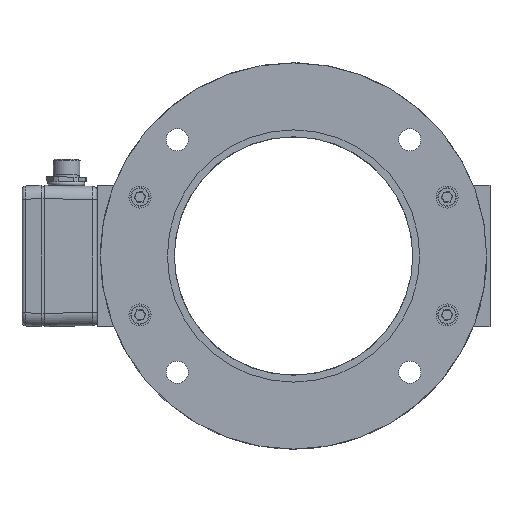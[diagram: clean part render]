
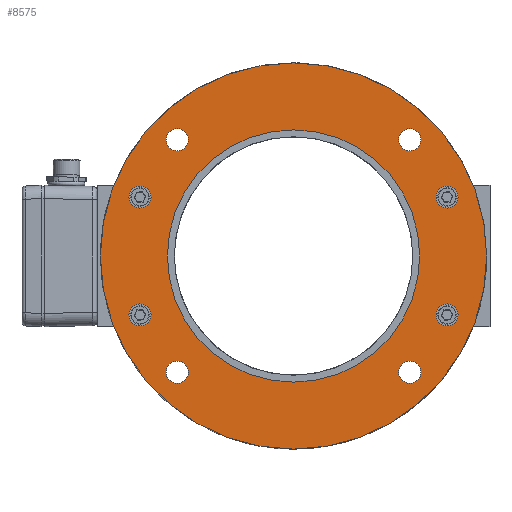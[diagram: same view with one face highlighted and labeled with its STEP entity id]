
A CAD part, front view. The second image highlights one B-rep face of the part: STEP entity #8575.
In plain terms, the highlighted planar face has unit normal (0, -1, 0).
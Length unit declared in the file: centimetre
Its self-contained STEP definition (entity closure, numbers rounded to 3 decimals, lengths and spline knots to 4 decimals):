
#2652=PLANE('',#9125);
#2825=VERTEX_POINT('',#12109);
#2829=VERTEX_POINT('',#12120);
#2833=VERTEX_POINT('',#12131);
#2837=VERTEX_POINT('',#12142);
#2915=VERTEX_POINT('',#12898);
#2917=VERTEX_POINT('',#12903);
#2919=VERTEX_POINT('',#12908);
#2921=VERTEX_POINT('',#12913);
#2927=VERTEX_POINT('',#12930);
#2931=VERTEX_POINT('',#12945);
#3547=CIRCLE('',#9025,0.5);
#3551=CIRCLE('',#9032,0.5);
#3555=CIRCLE('',#9039,0.5);
#3559=CIRCLE('',#9046,0.5);
#3585=CIRCLE('',#9092,0.5);
#3587=CIRCLE('',#9095,0.5);
#3589=CIRCLE('',#9098,0.5);
#3591=CIRCLE('',#9101,0.5);
#3597=CIRCLE('',#9112,5.715);
#3605=CIRCLE('',#9123,8.75);
#3932=EDGE_CURVE('',#2825,#2825,#3547,.T.);
#3936=EDGE_CURVE('',#2829,#2829,#3551,.T.);
#3940=EDGE_CURVE('',#2833,#2833,#3555,.T.);
#3944=EDGE_CURVE('',#2837,#2837,#3559,.T.);
#4050=EDGE_CURVE('',#2915,#2915,#3585,.T.);
#4052=EDGE_CURVE('',#2917,#2917,#3587,.T.);
#4054=EDGE_CURVE('',#2919,#2919,#3589,.T.);
#4056=EDGE_CURVE('',#2921,#2921,#3591,.T.);
#4062=EDGE_CURVE('',#2927,#2927,#3597,.T.);
#4070=EDGE_CURVE('',#2931,#2931,#3605,.T.);
#5194=ORIENTED_EDGE('',*,*,#3932,.T.);
#5195=ORIENTED_EDGE('',*,*,#3936,.T.);
#5196=ORIENTED_EDGE('',*,*,#3940,.T.);
#5197=ORIENTED_EDGE('',*,*,#3944,.T.);
#5198=ORIENTED_EDGE('',*,*,#4050,.T.);
#5199=ORIENTED_EDGE('',*,*,#4052,.T.);
#5200=ORIENTED_EDGE('',*,*,#4054,.T.);
#5201=ORIENTED_EDGE('',*,*,#4056,.T.);
#5202=ORIENTED_EDGE('',*,*,#4062,.T.);
#5203=ORIENTED_EDGE('',*,*,#4070,.F.);
#7150=EDGE_LOOP('',(#5194));
#7151=EDGE_LOOP('',(#5195));
#7152=EDGE_LOOP('',(#5196));
#7153=EDGE_LOOP('',(#5197));
#7154=EDGE_LOOP('',(#5198));
#7155=EDGE_LOOP('',(#5199));
#7156=EDGE_LOOP('',(#5200));
#7157=EDGE_LOOP('',(#5201));
#7158=EDGE_LOOP('',(#5202));
#7159=EDGE_LOOP('',(#5203));
#7883=FACE_BOUND('',#7150,.T.);
#7884=FACE_BOUND('',#7151,.T.);
#7885=FACE_BOUND('',#7152,.T.);
#7886=FACE_BOUND('',#7153,.T.);
#7887=FACE_BOUND('',#7154,.T.);
#7888=FACE_BOUND('',#7155,.T.);
#7889=FACE_BOUND('',#7156,.T.);
#7890=FACE_BOUND('',#7157,.T.);
#7891=FACE_BOUND('',#7158,.T.);
#7892=FACE_BOUND('',#7159,.T.);
#8575=ADVANCED_FACE('',(#7883,#7884,#7885,#7886,#7887,#7888,#7889,#7890,
#7891,#7892),#2652,.T.);
#9025=AXIS2_PLACEMENT_3D('',#12108,#9967,#9968);
#9032=AXIS2_PLACEMENT_3D('',#12119,#9980,#9981);
#9039=AXIS2_PLACEMENT_3D('',#12130,#9993,#9994);
#9046=AXIS2_PLACEMENT_3D('',#12141,#10006,#10007);
#9092=AXIS2_PLACEMENT_3D('',#12897,#10132,#10133);
#9095=AXIS2_PLACEMENT_3D('',#12902,#10138,#10139);
#9098=AXIS2_PLACEMENT_3D('',#12907,#10144,#10145);
#9101=AXIS2_PLACEMENT_3D('',#12912,#10150,#10151);
#9112=AXIS2_PLACEMENT_3D('',#12929,#10172,#10173);
#9123=AXIS2_PLACEMENT_3D('',#12944,#10192,#10193);
#9125=AXIS2_PLACEMENT_3D('',#12947,#10196,$);
#9967=DIRECTION('',(0.,1.,0.));
#9968=DIRECTION('',(0.,0.,-0.5));
#9980=DIRECTION('',(0.,1.,0.));
#9981=DIRECTION('',(0.,0.,-0.5));
#9993=DIRECTION('',(0.,1.,0.));
#9994=DIRECTION('',(0.,0.,-0.5));
#10006=DIRECTION('',(0.,1.,0.));
#10007=DIRECTION('',(0.,0.,-0.5));
#10132=DIRECTION('',(0.,1.,0.));
#10133=DIRECTION('',(0.,0.,-0.5));
#10138=DIRECTION('',(0.,1.,0.));
#10139=DIRECTION('',(0.,0.,-0.5));
#10144=DIRECTION('',(0.,1.,0.));
#10145=DIRECTION('',(0.,0.,-0.5));
#10150=DIRECTION('',(0.,1.,0.));
#10151=DIRECTION('',(0.,0.,-0.5));
#10172=DIRECTION('',(0.,1.,0.));
#10173=DIRECTION('',(5.715,0.,0.));
#10192=DIRECTION('',(0.,1.,0.));
#10193=DIRECTION('',(8.75,0.,0.));
#10196=DIRECTION('',(0.,-1.,0.));
#12108=CARTESIAN_POINT('',(6.9552,-9.5,-2.6698));
#12109=CARTESIAN_POINT('',(6.9552,-9.5,-3.1698));
#12119=CARTESIAN_POINT('',(6.9552,-9.5,2.6698));
#12120=CARTESIAN_POINT('',(6.9552,-9.5,2.1698));
#12130=CARTESIAN_POINT('',(-6.9552,-9.5,-2.6698));
#12131=CARTESIAN_POINT('',(-6.9552,-9.5,-3.1698));
#12141=CARTESIAN_POINT('',(-6.9552,-9.5,2.6698));
#12142=CARTESIAN_POINT('',(-6.9552,-9.5,2.1698));
#12897=CARTESIAN_POINT('',(5.2679,-9.5,5.2679));
#12898=CARTESIAN_POINT('',(5.2679,-9.5,4.7679));
#12902=CARTESIAN_POINT('',(-5.2679,-9.5,5.2679));
#12903=CARTESIAN_POINT('',(-5.2679,-9.5,4.7679));
#12907=CARTESIAN_POINT('',(-5.2679,-9.5,-5.2679));
#12908=CARTESIAN_POINT('',(-5.2679,-9.5,-5.7679));
#12912=CARTESIAN_POINT('',(5.2679,-9.5,-5.2679));
#12913=CARTESIAN_POINT('',(5.2679,-9.5,-5.7679));
#12929=CARTESIAN_POINT('',(0.,-9.5,0.));
#12930=CARTESIAN_POINT('',(5.715,-9.5,0.));
#12944=CARTESIAN_POINT('',(0.,-9.5,0.));
#12945=CARTESIAN_POINT('',(8.75,-9.5,0.));
#12947=CARTESIAN_POINT('',(0.,-9.5,0.));
